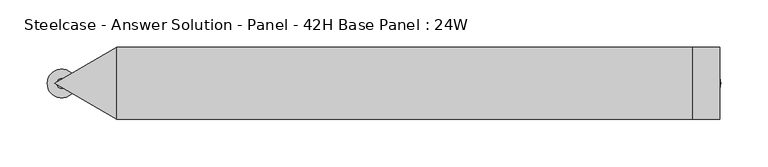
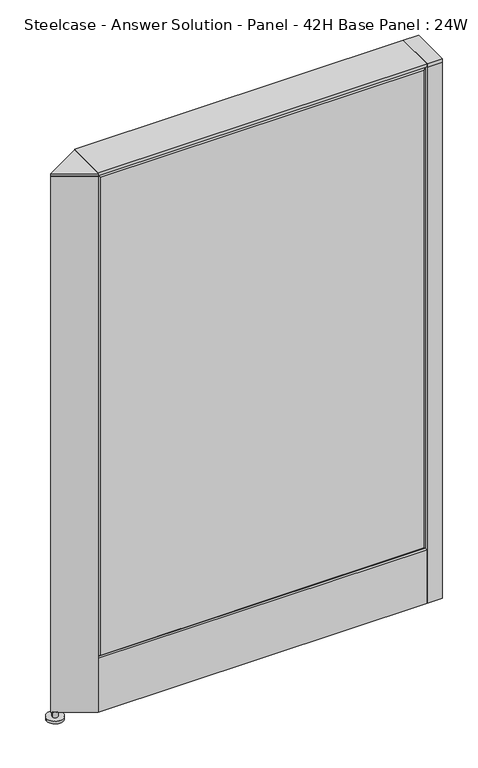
"""IFC4 building model written with IfcOpenShell, lengths in millimetres: furniture geometry, Steelcase - Answer Solution - Panel - 42H Base Panel : 24W."""

from ifc_helpers import new_model, si_unit, point, frame, frame_2d, origin, place, context, project, spatial, polyline, circle_curve, trimmed, segment, composite_curve, outline, extrude, faceted_brep, source, transform, mapped, element, save


def steelcase_answer_solution_panel_42h_base_panel_24w_1ea36427(model_context):
    return source(origin(), model_context, "Body", "SolidModel", [
        extrude(outline(composite_curve([segment(trimmed(circle_curve(frame_2d((319.024, -0.0039657)), 5.08), [point((324.104, -0.0039657))], [point((313.944, -0.0039657))], False, "CARTESIAN"), True, "CONTINUOUS"), segment(trimmed(circle_curve(frame_2d((319.024, -0.0039657)), 5.08), [point((313.944, -0.0039657))], [point((324.104, -0.0039657))], False, "CARTESIAN"), True, "CONTINUOUS")], self_intersect=False)), frame((0.0, 0.0, 5.0799671), z_axis=(0.0, 0.0, 1.0), x_axis=(1.0, 0.0, 0.0)), (0.0, 0.0, 1.0), 10.414),
        extrude(outline(composite_curve([segment(trimmed(circle_curve(frame_2d((319.024, -0.0039657)), 15.24), [point((334.264, -0.0039657))], [point((303.784, -0.0039657))], False, "CARTESIAN"), True, "CONTINUOUS"), segment(trimmed(circle_curve(frame_2d((319.024, -0.0039657)), 15.24), [point((303.784, -0.0039657))], [point((334.264, -0.0039657))], False, "CARTESIAN"), True, "CONTINUOUS")], self_intersect=False)), frame((0.0, 0.0, -3.29e-05), z_axis=(0.0, 0.0, 1.0), x_axis=(1.0, 0.0, 0.0)), (0.0, 0.0, 1.0), 5.08),
        extrude(outline(polyline([(333.375, -38.1039851), (304.8, -38.1039851), (304.8, 38.0960149), (333.375, 38.0960149), (333.375, -38.1039851)])), frame((0.0, 0.0, 1065.8348), z_axis=(0.0, 0.0, 1.0), x_axis=(1.0, 0.0, 0.0)), (0.0, 0.0, 1.0), 7.3151671),
        extrude(outline(polyline([(333.375, -38.1039851), (304.8, -38.1039851), (304.8, 38.0960149), (333.375, 38.0960149), (333.375, -38.1039851)])), frame((0.0, 0.0, 15.4939671), z_axis=(0.0, 0.0, 1.0), x_axis=(1.0, 0.0, 0.0)), (0.0, 0.0, 1.0), 1050.3408329),
        extrude(outline(composite_curve([segment(trimmed(circle_curve(frame_2d((-363.22, -0.0039657)), 5.08), [point((-368.3, -0.0039657))], [point((-358.14, -0.0039657))], False, "CARTESIAN"), True, "CONTINUOUS"), segment(trimmed(circle_curve(frame_2d((-363.22, -0.0039657)), 5.08), [point((-358.14, -0.0039657))], [point((-368.3, -0.0039657))], False, "CARTESIAN"), True, "CONTINUOUS")], self_intersect=False)), frame((0.0, 0.0, 5.0799671), z_axis=(0.0, 0.0, 1.0), x_axis=(1.0, 0.0, 0.0)), (0.0, 0.0, 1.0), 10.414),
        extrude(outline(composite_curve([segment(trimmed(circle_curve(frame_2d((-363.22, -0.0039657)), 15.24), [point((-378.46, -0.0039657))], [point((-347.98, -0.0039657))], False, "CARTESIAN"), True, "CONTINUOUS"), segment(trimmed(circle_curve(frame_2d((-363.22, -0.0039657)), 15.24), [point((-347.98, -0.0039657))], [point((-378.46, -0.0039657))], False, "CARTESIAN"), True, "CONTINUOUS")], self_intersect=False)), frame((0.0, 0.0, -3.29e-05), z_axis=(0.0, 0.0, 1.0), x_axis=(1.0, 0.0, 0.0)), (0.0, 0.0, 1.0), 5.08),
        extrude(outline(polyline([(-304.7716604, 38.1243768), (-304.7716604, -38.0756232), (-370.7633991, 0.0254214), (-304.7716604, 38.1243768)])), frame((0.0, 0.0, 15.4939671), z_axis=(0.0, 0.0, 1.0), x_axis=(1.0, 0.0, 0.0)), (0.0, 0.0, 1.0), 1050.29),
        extrude(outline(polyline([(-370.7633991, 0.0254214), (-304.7716604, 38.1243768), (-304.7716604, -38.0756232), (-370.7633991, 0.0254214)])), frame((0.0, 0.0, 1065.8348), z_axis=(0.0, 0.0, 1.0), x_axis=(1.0, 0.0, 0.0)), (0.0, 0.0, 1.0), 5.4356),
        faceted_brep([(-299.974, -38.1635011, 1061.974), (-299.974, -38.1635011, 125.476), (299.974, -38.1635011, 125.476), (299.974, -38.1635011, 1061.974), (-304.8, -33.3375011, 1066.8), (304.8, -33.3375011, 1066.8), (304.8, -33.3375011, 120.65), (-304.8, -33.3375011, 120.65)], [[[0, 1, 2, 3]], [[4, 5, 6, 7]], [[4, 0, 3, 5]], [[5, 3, 2, 6]], [[6, 2, 1, 7]], [[7, 1, 0, 4]]]),
        faceted_brep([(299.974, 38.1635011, 1061.974), (299.974, 38.1635011, 125.476), (-299.974, 38.1635011, 125.476), (-299.974, 38.1635011, 1061.974), (304.8, 33.3375011, 1066.8), (-304.8, 33.3375011, 1066.8), (-304.8, 33.3375011, 120.65), (304.8, 33.3375011, 120.65)], [[[0, 1, 2, 3]], [[4, 5, 6, 7]], [[4, 0, 3, 5]], [[5, 3, 2, 6]], [[6, 2, 1, 7]], [[7, 1, 0, 4]]]),
        extrude(outline(polyline([(304.8, -38.1000194), (-304.8, -38.1000194), (-304.8, 38.1000194), (304.8, 38.1000194), (304.8, -38.1000194)])), frame((0.0, 0.0, 1066.8), z_axis=(0.0, 0.0, 1.0), x_axis=(1.0, 0.0, 0.0)), (0.0, 0.0, 1.0), 6.35),
        extrude(outline(polyline([(-25.4000011, 119.8575157), (-37.3075215, 119.8575157), (-37.3075215, 15.494), (-38.1000194, 15.494), (-38.1000194, 120.65), (-25.4000011, 120.65), (-25.4000011, 119.8575157)])), frame((-304.8, 0.0, 0.0), z_axis=(1.0, 0.0, 0.0), x_axis=(0.0, 1.0, 0.0)), (0.0, 0.0, 1.0), 609.6),
        extrude(outline(polyline([(25.4000011, 119.8575157), (25.4000011, 120.65), (38.1000194, 120.65), (38.1000194, 15.494), (37.3075215, 15.494), (37.3075215, 119.8575157), (25.4000011, 119.8575157)])), frame((-304.8, 0.0, 0.0), z_axis=(1.0, 0.0, 0.0), x_axis=(0.0, 1.0, 0.0)), (0.0, 0.0, 1.0), 609.6),
    ])


if __name__ == "__main__":
    model = new_model("IFC4")
    model_context = context("Model", 3, world=origin())
    ifc_project = project(units=[si_unit("LENGTHUNIT", "METRE", prefix="MILLI")], contexts=[model_context])
    site = spatial("IfcSite", under=ifc_project)
    building = spatial("IfcBuilding", under=site)
    placement = place(None, origin())
    steelcase_answer_solution_panel_42h_base_panel_24w_shape = steelcase_answer_solution_panel_42h_base_panel_24w_1ea36427(model_context)
    element("IfcFurniture", 1, ObjectType="Steelcase - Answer Solution - Panel - 42H Base Panel : 24W", at=placement, inside=building, context=model_context, shape_type="MappedRepresentation", body=[
        mapped(steelcase_answer_solution_panel_42h_base_panel_24w_shape, transform((0.0, 0.0, 0.0), x_axis=(1.0, 0.0, 0.0), y_axis=(0.0, 1.0, 0.0), z_axis=(0.0, 0.0, 1.0))),
    ])
    save(model, "model.ifc")
